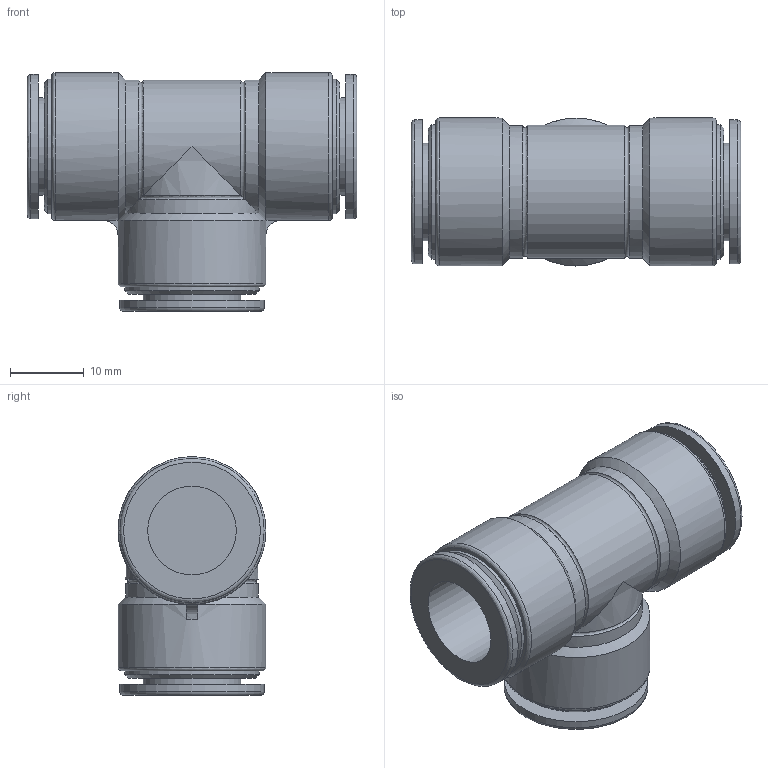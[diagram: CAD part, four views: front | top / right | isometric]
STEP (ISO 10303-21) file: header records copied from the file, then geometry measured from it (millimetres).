
FILE_DESCRIPTION((''),'2;1');
FILE_NAME('E:\2012年度板ﾃﾞｰﾀ\CHIYODA 3D-CAD DATA (Inventor 11)\TOUCH CONNECTOR FIVE (Inventor 11)\[17] UNION TEE\[05] FR12-00UT FR12-00UTW.stp','2012-03-21T16:23:42',('kazuhiro.t'),(''),'Autodesk Inventor 11','Autodesk Inventor 11','');
FILE_SCHEMA(('AUTOMOTIVE_DESIGN { 1 0 10303 214 1 1 1 1 }'));
Length unit declared in the file: millimetre
Products named in the file (1): [05] FR12-00UT FR12-00UTW
Bounding box: 44.6 x 20 x 32.3 mm (x, y, z)
Volume: 11432.3 mm3; surface area: 6931.4 mm2
Topology: 1 solids, 1 shells, 68 faces, 145 edges, 91 vertices
Faces by surface type: bspline 36, plane 14, cylinder 11, torus 4, cone 3
Full cylindrical faces by diameter (mm): 12 x1, 13.2 x2, 18.2 x2, 19.5 x2, 20 x1
Entity records: 2320 total; most frequent: CARTESIAN_POINT 1031, DIRECTION 242, ORIENTED_EDGE 240, EDGE_CURVE 120, AXIS2_PLACEMENT_3D 105, EDGE_LOOP 104, VERTEX_POINT 90, FACE_OUTER_BOUND 68
